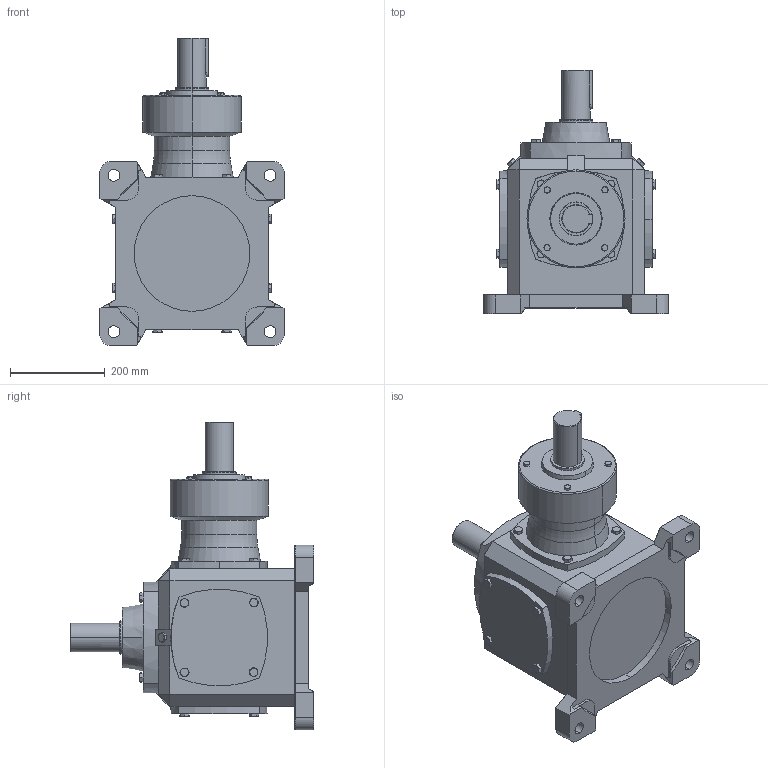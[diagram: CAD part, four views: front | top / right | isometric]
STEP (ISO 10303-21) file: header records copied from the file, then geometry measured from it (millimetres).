
FILE_DESCRIPTION (( 'STEP AP203' ), '1' );
FILE_NAME ('TC16-1-WSX1-H6.step', '2018-07-14T06:45:51', ( 'IT Division' ), ( 'IT' ), 'SwSTEP 2.0', 'SolidWorks 2016', '' );
FILE_SCHEMA (( 'CONFIG_CONTROL_DESIGN' ));
Length unit declared in the file: millimetre
Products named in the file (1): TC16-1-WSX1-H6
Bounding box: 390 x 515 x 650 mm (x, y, z)
Volume: 36639865.9 mm3; surface area: 1091370.6 mm2
Topology: 3 solids, 3 shells, 582 faces, 1394 edges, 852 vertices
Faces by surface type: plane 294, cone 193, cylinder 87, torus 8
Entity records: 17946 total; most frequent: CARTESIAN_POINT 4872, ORIENTED_EDGE 2788, DIRECTION 2558, EDGE_CURVE 1394, AXIS2_PLACEMENT_3D 934, VERTEX_POINT 852, LINE 690, VECTOR 690
